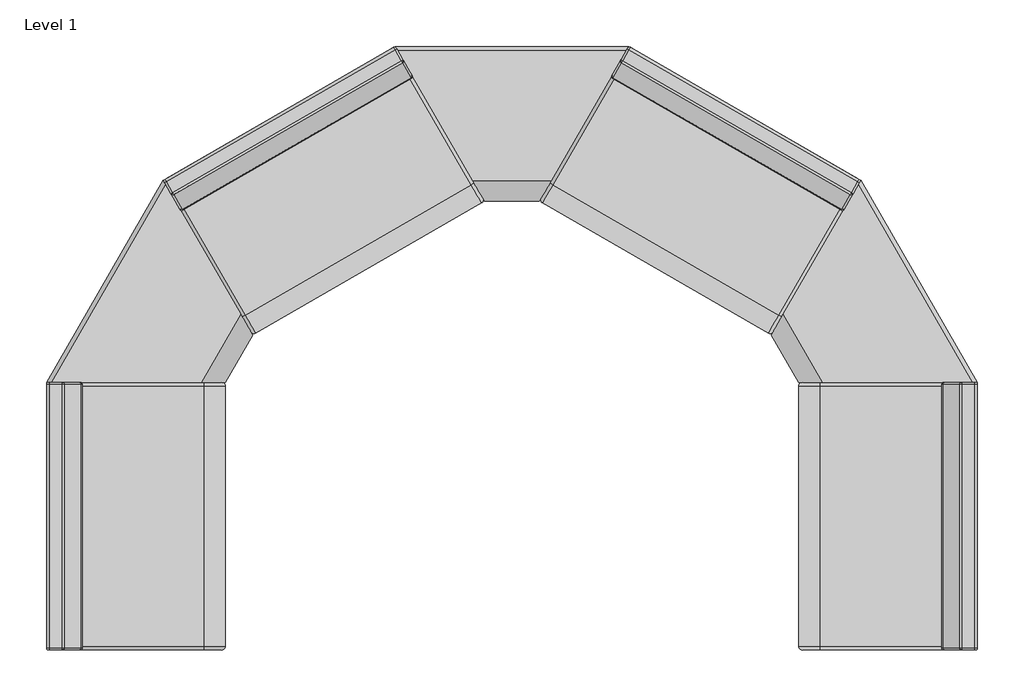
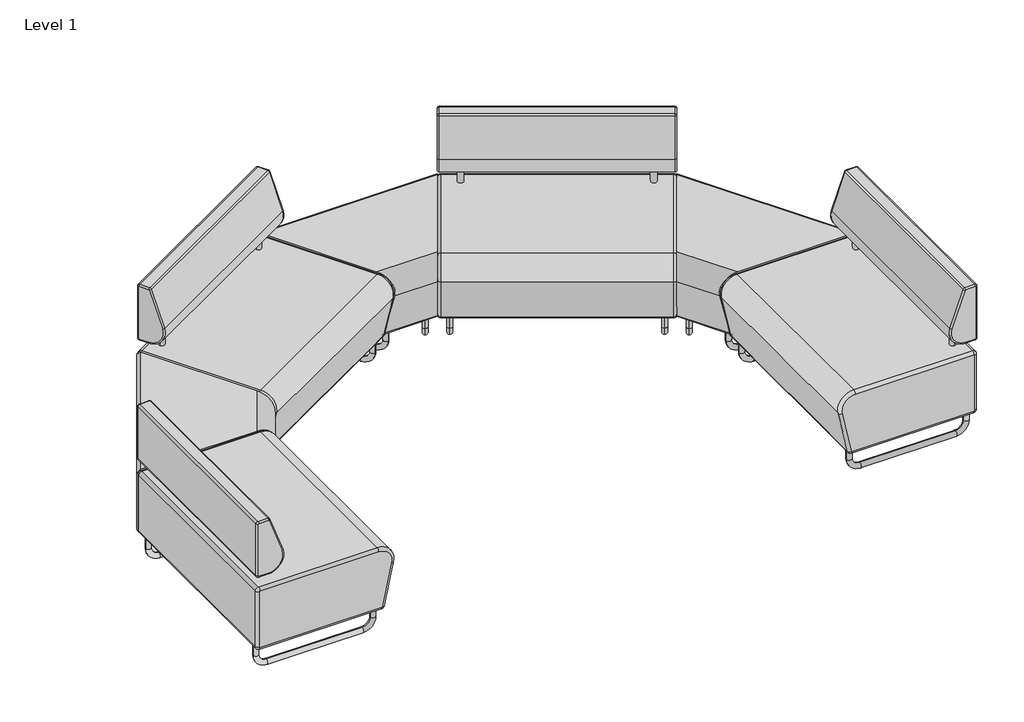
# One storey: 7 furniture elements.
"""IFC4 building model written with IfcOpenShell, lengths in millimetres."""

from ifc_helpers import new_model, si_unit, origin, place, context, project, spatial, transform, mapped, element, save
from components import lounge_seat_ki_hub_0f860df9, lounge_seat_ki_hub_ottoman_10218188

model = new_model("IFC4")

# Units and contexts
model_context = context("Model", 3, world=origin())
ifc_project = project(units=[si_unit("LENGTHUNIT", "METRE", prefix="MILLI")], contexts=[model_context])

# Site, building, storey
site = spatial("IfcSite", under=ifc_project)
building = spatial("IfcBuilding", under=site)
storey = spatial("IfcBuildingStorey", under=building, Name="Level 1", Elevation=0.0)

# Furniture
placement = place(None, origin())
lounge_seat_ki_hub_shape = lounge_seat_ki_hub_0f860df9(model_context)
element("IfcFurniture", 1, ObjectType="Lounge-Seat-KI-Hub : 39\"W, Armless, Contrast", at=placement, inside=storey, context=model_context, shape_type="MappedRepresentation", body=[
    mapped(lounge_seat_ki_hub_shape, transform((2816.727784, 2894.9047445, 0.0), x_axis=(0.8660254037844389, -0.49999999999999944, 0.0), y_axis=(0.49999999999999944, 0.8660254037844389, 0.0), z_axis=(0.0, 0.0, 1.0))),
])
element("IfcFurniture", 2, ObjectType="Lounge-Seat-KI-Hub : 39\"W, Armless, Contrast", at=placement, inside=storey, context=model_context, shape_type="MappedRepresentation", body=[
    mapped(lounge_seat_ki_hub_shape, transform((1425.443019, 2894.9047445, 0.0), x_axis=(0.8660254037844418, 0.49999999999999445, 0.0), y_axis=(-0.49999999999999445, 0.8660254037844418, 0.0), z_axis=(0.0, 0.0, 1.0))),
])
element("IfcFurniture", 3, ObjectType="Lounge-Seat-KI-Hub : 39\"W, Armless, Contrast", at=placement, inside=storey, context=model_context, shape_type="MappedRepresentation", body=[
    mapped(lounge_seat_ki_hub_shape, transform((729.8006365, 1690.0167941, 0.0), x_axis=(0.0, 1.0, 0.0), y_axis=(-1.0, 0.0, 0.0), z_axis=(0.0, 0.0, 1.0))),
])
element("IfcFurniture", 4, ObjectType="Lounge-Seat-KI-Hub : 39\"W, Armless, Contrast", at=placement, inside=storey, context=model_context, shape_type="MappedRepresentation", body=[
    mapped(lounge_seat_ki_hub_shape, transform((3512.5013457, 1690.0167941, 0.0), x_axis=(0.0, -1.0, 0.0), y_axis=(1.0, 0.0, 0.0), z_axis=(0.0, 0.0, 1.0))),
])
lounge_seat_ki_hub_ottoman_shape = lounge_seat_ki_hub_ottoman_10218188(model_context)
element("IfcFurniture", 5, ObjectType="Lounge-Seat-KI-Hub-Ottoman : 60\x9d\x9d° Wedge - Inside", at=placement, inside=storey, context=model_context, shape_type="MappedRepresentation", body=[
    mapped(lounge_seat_ki_hub_ottoman_shape, transform((2121.0854015, 3142.5547445, 0.0), x_axis=(1.0, 0.0, 0.0), y_axis=(0.0, 1.0, 0.0), z_axis=(0.0, 0.0, 1.0))),
])
element("IfcFurniture", 6, ObjectType="Lounge-Seat-KI-Hub-Ottoman : 60\x9d\x9d° Wedge - Inside", at=placement, inside=storey, context=model_context, shape_type="MappedRepresentation", body=[
    mapped(lounge_seat_ki_hub_ottoman_shape, transform((863.1506365, 2416.2857693, 0.0), x_axis=(0.5000000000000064, 0.8660254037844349, 0.0), y_axis=(-0.8660254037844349, 0.5000000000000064, 0.0), z_axis=(0.0, 0.0, 1.0))),
])
element("IfcFurniture", 7, ObjectType="Lounge-Seat-KI-Hub-Ottoman : 60\x9d\x9d° Wedge - Inside", at=placement, inside=storey, context=model_context, shape_type="MappedRepresentation", body=[
    mapped(lounge_seat_ki_hub_ottoman_shape, transform((3379.0201664, 2416.2857693, 0.0), x_axis=(0.5000000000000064, -0.8660254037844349, 0.0), y_axis=(0.8660254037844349, 0.5000000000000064, 0.0), z_axis=(0.0, 0.0, 1.0))),
])

save(model, "model.ifc")
